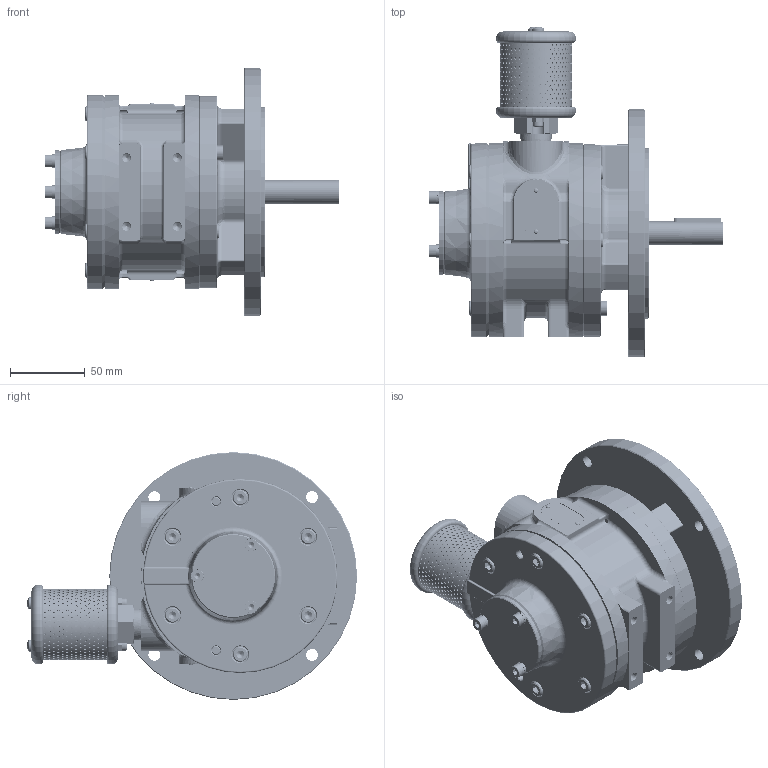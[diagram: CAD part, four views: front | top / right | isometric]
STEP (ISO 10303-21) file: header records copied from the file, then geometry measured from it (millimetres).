
FILE_DESCRIPTION (( 'STEP AP214' ), '1' );
FILE_NAME ('6VMN (Nema)_Solid 31-07-25.STEP', '2025-07-31T10:09:57', ( '' ), ( '' ), 'SwSTEP 2.0', 'SolidWorks 2017', '' );
FILE_SCHEMA (( 'AUTOMOTIVE_DESIGN' ));
Length unit declared in the file: millimetre
Products named in the file (2): 6VMN (Nema)_Solid 31-07-25
Bounding box: 197.43 x 221.2 x 166 mm (x, y, z)
Volume: 1465959.8 mm3; surface area: 404440.9 mm2
Topology: 91 solids, 91 shells, 5751 faces, 14477 edges, 8846 vertices
Faces by surface type: cylinder 2793, cone 1451, plane 1036, torus 313, bspline 128, sphere 30
Entity records: 282480 total; most frequent: CARTESIAN_POINT 82809, ORIENTED_EDGE 28630, DIRECTION 26596, EDGE_CURVE 14315, AXIS2_PLACEMENT_3D 10428, VERTEX_POINT 8846, EDGE_LOOP 7517, UNCERTAINTY_MEASURE_WITH_UNIT 5844
